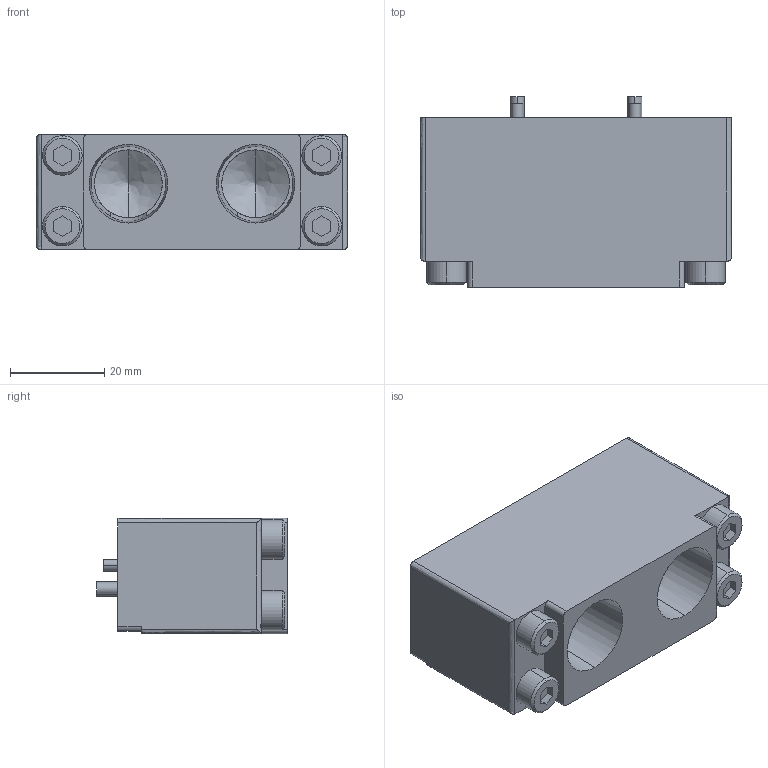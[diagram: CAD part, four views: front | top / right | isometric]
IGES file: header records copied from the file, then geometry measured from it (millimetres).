
Start section: 3D InterOp IGES (v. 2022 1.0.0), Spatial Corp. Copyright (c) 1999-2020.
Global section: file name: KHB-12~25RS-EP102_ver1.igs; native system: Spatial Corp.; preprocessor: 3D InterOp GENERIC/IGES 3.0; author: Noname; organization: Noname; date: 20260427.132719; units: millimetre
Bounding box: 66 x 40.5 x 24.5 mm (x, y, z)
Surface area: 16656 mm2 (no closed solid volume)
Topology: 0 solids, 0 shells, 207 faces, 946 edges, 942 vertices
Faces by surface type: revolution 111, extrusion 96
